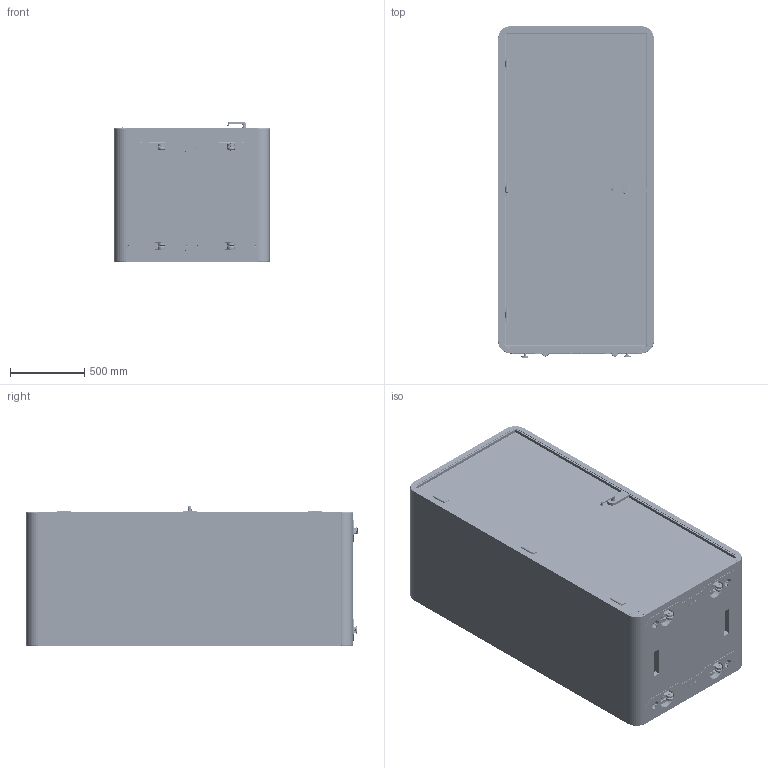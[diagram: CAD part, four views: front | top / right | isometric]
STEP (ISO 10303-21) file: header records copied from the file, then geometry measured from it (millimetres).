
FILE_DESCRIPTION(/* description */ (''),/* implementation_level */ '2;1');
FILE_NAME(/* name */ 'C:\Nextcloud\02_biblioteki_cad\mikomax\Zmiany w modelach 05.05\Eksporty-28-lipca\HUS-BX-218\INCH\HUS-BX-218-inch-close v2.stp',/* time_stamp */ '2022-07-28T17:03:27+02:00',/* author */ ('alane'),/* organization */ (''),/* preprocessor_version */ 'ST-DEVELOPER v18.1',/* originating_system */ 'Autodesk Inventor 2022',/* authorisation */ '');
FILE_SCHEMA (('CONFIG_CONTROL_DESIGN'));
Products named in the file (167): HUS-BX-218-DWG-mm; HUS-BX-218-DWG-mm32; HUS-BX-218-DWG-mm33; HUS-BX-218-DWG-mm34; HUS-BX-218-DWG-mm35; HUS-BX-218-DWG-mm36; HUS-BX-218-DWG-mm37; HUS-BX-218-DWG-mm38; HUS-BX-218-DWG-mm39; HUS-BX-218-DWG-mm40; HUS-BX-218-DWG-mm43; HUS-BX-218-DWG-mm45; HUS-BX-218-DWG-mm47; HUS-BX-218-DWG-mm48; HUS-BX-218-DWG-mm49; HUS-BX-218-DWG-mm50; HUS-BX-218-DWG-mm55; HUS-BX-218-DWG-mm56; HUS-BX-218-DWG-mm60; HUS-BX-218-DWG-mm61; HUS-BX-218-DWG-mm64; HUS-BX-218-DWG-mm68; HUS-BX-218-DWG-mm69; HUS-BX-218-DWG-mm70; HUS-BX-218-DWG-mm71; HUS-BX-218-DWG-mm72; HUS-BX-218-DWG-mm73; HUS-BX-218-DWG-mm74; HUS-BX-218-DWG-mm75; HUS-BX-218-DWG-mm100; HUS-BX-218-DWG-mm101; HUS-BX-218-DWG-mm102; HUS-BX-218-DWG-mm103; HUS-BX-218-DWG-mm110; HUS-BX-218-DWG-mm124; HUS-BX-218-DWG-mm125; HUS-BX-218-DWG-mm141; HUS-BX-218-DWG-mm142; HUS-BX-218-DWG-mm183; HUS-BX-218-DWG-mm204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
Assembly tree (195 placements, depth 4):
  HUS-BX-218-DWG-mm
    HUS-BX-218-DWG-mm32
    HUS-BX-218-DWG-mm33
    HUS-BX-218-DWG-mm34
    HUS-BX-218-DWG-mm35
    HUS-BX-218-DWG-mm36
    HUS-BX-218-DWG-mm37
    HUS-BX-218-DWG-mm38
    HUS-BX-218-DWG-mm39
    HUS-BX-218-DWG-mm40
    HUS-BX-218-DWG-mm43
    HUS-BX-218-DWG-mm45
    HUS-BX-218-DWG-mm47
    HUS-BX-218-DWG-mm48
    HUS-BX-218-DWG-mm49
    HUS-BX-218-DWG-mm50
    HUS-BX-218-DWG-mm55
    HUS-BX-218-DWG-mm56
    HUS-BX-218-DWG-mm60
    HUS-BX-218-DWG-mm61
    HUS-BX-218-DWG-mm64
    HUS-BX-218-DWG-mm68
    HUS-BX-218-DWG-mm69
    HUS-BX-218-DWG-mm70
    HUS-BX-218-DWG-mm71
    HUS-BX-218-DWG-mm72
    HUS-BX-218-DWG-mm73
    HUS-BX-218-DWG-mm74
    HUS-BX-218-DWG-mm75
    HUS-BX-218-DWG-mm100
    HUS-BX-218-DWG-mm101
    HUS-BX-218-DWG-mm102
    HUS-BX-218-DWG-mm103
    HUS-BX-218-DWG-mm110
    HUS-BX-218-DWG-mm124
    HUS-BX-218-DWG-mm125
    HUS-BX-218-DWG-mm141
    HUS-BX-218-DWG-mm142
    HUS-BX-218-DWG-mm183
    HUS-BX-218-DWG-mm204
    HUS-BX-218-DWG-mm205
    HUS-BX-218-DWG-mm206
    HUS-BX-218-DWG-mm207
    HUS-BX-218-DWG-mm208
    HUS-BX-218-DWG-mm209
    HUS-BX-218-DWG-mm210
    HUS-BX-218-DWG-mm211
    HUS-BX-218-DWG-mm213
    HUS-BX-218-DWG-mm226
    HUS-BX-218-DWG-mm227
    HUS-BX-218-DWG-mm229
    HUS-BX-218-DWG-mm230
    HUS-BX-218-DWG-mm233
    HUS-BX-218-DWG-mm234
    HUS-BX-218-DWG-mm238
    HUS-BX-218-DWG-mm239
    HUS-BX-218-DWG-mm240
    HUS-BX-218-DWG-mm241
    HUS-BX-218-DWG-mm242
    HUS-BX-218-DWG-mm243
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Bounding box: 1050 x 2243.1 x 941.35 mm (x, y, z)
Volume: 578530445.8 mm3; surface area: 44591838.9 mm2
Topology: 237 solids, 237 shells, 10836 faces, 27896 edges, 18078 vertices
Faces by surface type: plane 5740, cylinder 3318, bspline 819, cone 510, torus 306, sphere 143
Full cylindrical faces by diameter (mm): 0.3 x12, 1.104 x1, 2 x172, 2.343 x12, 2.5 x2, 3 x5, 3.2 x5, 3.242 x2, 3.3 x3, 3.5 x2, 4 x16, 4.134 x9, 4.5 x16, 4.917 x2, 5 x45, 5.134 x3, 5.4 x9, 5.5 x32, 6 x7, 6.647 x43, 7 x17, 8 x70, 8.376 x8, 8.4 x8, 9 x11, 10 x51, 10.5 x4, 11 x16, 12 x11, 13 x8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
Entity records: 350928 total; most frequent: CARTESIAN_POINT 102045, ORIENTED_EDGE 50754, DIRECTION 48375, EDGE_CURVE 25377, VERTEX_POINT 16567, LINE 16231, VECTOR 16231, AXIS2_PLACEMENT_3D 16072
